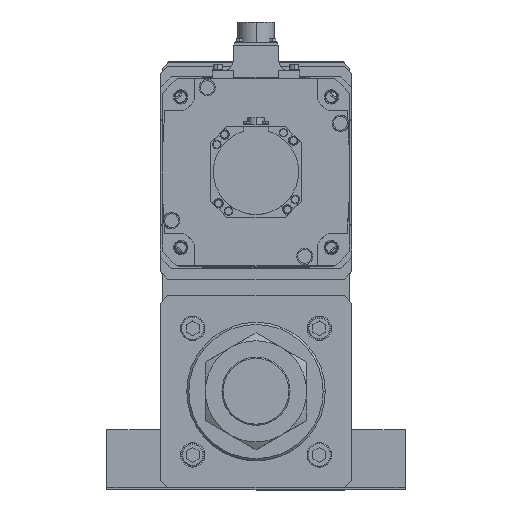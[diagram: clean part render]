
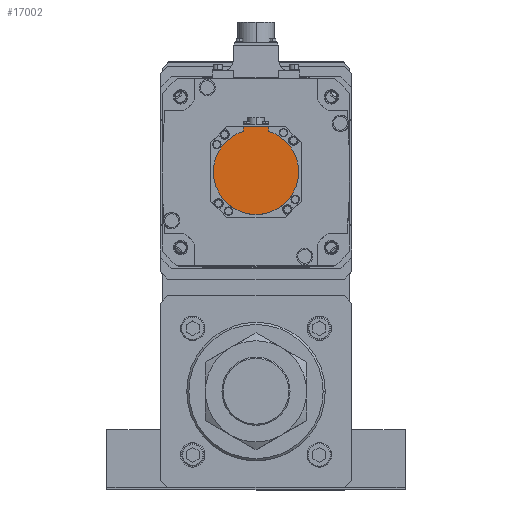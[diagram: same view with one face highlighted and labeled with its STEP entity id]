
A CAD part, top view. The second image highlights one B-rep face of the part: STEP entity #17002.
In plain terms, the highlighted planar face has unit normal (0, 0, 1) as drawn and (0, 0, -1) by its records, which use the part's own axes.
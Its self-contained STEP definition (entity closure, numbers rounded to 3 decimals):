
#1175 = ORIENTED_EDGE ( 'NONE', *, *, #35959, .F. ) ;
#1874 = LINE ( 'NONE', #35072, #10832 ) ;
#6934 = FACE_OUTER_BOUND ( 'NONE', #39545, .T. ) ;
#8008 = ORIENTED_EDGE ( 'NONE', *, *, #10337, .F. ) ;
#9338 = EDGE_CURVE ( 'NONE', #41839, #38315, #39462, .T. ) ;
#10337 = EDGE_CURVE ( 'NONE', #21704, #29147, #18780, .T. ) ;
#10832 = VECTOR ( 'NONE', #47102, 1000. ) ;
#10974 = DIRECTION ( 'NONE',  ( 1., 0., 0. ) ) ;
#11682 = CARTESIAN_POINT ( 'NONE',  ( -40., 0., -178.5 ) ) ;
#13493 = DIRECTION ( 'NONE',  ( 1., 0., 0. ) ) ;
#13506 = EDGE_CURVE ( 'NONE', #37240, #29147, #1874, .T. ) ;
#15130 = CARTESIAN_POINT ( 'NONE',  ( 0., -42.5, -178.5 ) ) ;
#15631 = DIRECTION ( 'NONE',  ( 0., 0., 1. ) ) ;
#15659 = AXIS2_PLACEMENT_3D ( 'NONE', #51134, #34806, #47696 ) ;
#17002 = ADVANCED_FACE ( 'NONE', ( #6934 ), #48492, .F. ) ;
#18032 = CARTESIAN_POINT ( 'NONE',  ( 12., -38.158, -178.5 ) ) ;
#18534 = AXIS2_PLACEMENT_3D ( 'NONE', #44155, #15631, #10974 ) ;
#18772 = VECTOR ( 'NONE', #44004, 1000. ) ;
#18780 = CIRCLE ( 'NONE', #20399, 40. ) ;
#18799 = VERTEX_POINT ( 'NONE', #50436 ) ;
#20151 = ORIENTED_EDGE ( 'NONE', *, *, #9338, .F. ) ;
#20399 = AXIS2_PLACEMENT_3D ( 'NONE', #29793, #25633, #13493 ) ;
#21684 = EDGE_CURVE ( 'NONE', #18799, #21704, #50699, .T. ) ;
#21704 = VERTEX_POINT ( 'NONE', #11682 ) ;
#23639 = EDGE_CURVE ( 'NONE', #41839, #37240, #24521, .T. ) ;
#24521 = LINE ( 'NONE', #15130, #18772 ) ;
#25633 = DIRECTION ( 'NONE',  ( 0., 0., 1. ) ) ;
#27356 = CARTESIAN_POINT ( 'NONE',  ( 12., -1.249, -178.5 ) ) ;
#27515 = DIRECTION ( 'NONE',  ( 1., 0., 0. ) ) ;
#29147 = VERTEX_POINT ( 'NONE', #44522 ) ;
#29793 = CARTESIAN_POINT ( 'NONE',  ( 0., 0., -178.5 ) ) ;
#31601 = CARTESIAN_POINT ( 'NONE',  ( 12., -42.5, -178.5 ) ) ;
#32369 = CARTESIAN_POINT ( 'NONE',  ( 0., -1.249, -178.5 ) ) ;
#32882 = ORIENTED_EDGE ( 'NONE', *, *, #13506, .T. ) ;
#34806 = DIRECTION ( 'NONE',  ( 0., 0., 1. ) ) ;
#35072 = CARTESIAN_POINT ( 'NONE',  ( -12., -40.329, -178.5 ) ) ;
#35959 = EDGE_CURVE ( 'NONE', #38315, #18799, #38349, .T. ) ;
#36661 = DIRECTION ( 'NONE',  ( 0., 1., 0. ) ) ;
#37240 = VERTEX_POINT ( 'NONE', #47860 ) ;
#38315 = VERTEX_POINT ( 'NONE', #18032 ) ;
#38349 = CIRCLE ( 'NONE', #15659, 40. ) ;
#39462 = LINE ( 'NONE', #27356, #49094 ) ;
#39545 = EDGE_LOOP ( 'NONE', ( #32882, #8008, #49453, #1175, #20151, #48344 ) ) ;
#39879 = DIRECTION ( 'NONE',  ( 0., 0., 1. ) ) ;
#41839 = VERTEX_POINT ( 'NONE', #31601 ) ;
#44004 = DIRECTION ( 'NONE',  ( -1., 0., 0. ) ) ;
#44155 = CARTESIAN_POINT ( 'NONE',  ( 0., 0., -178.5 ) ) ;
#44522 = CARTESIAN_POINT ( 'NONE',  ( -12., -38.158, -178.5 ) ) ;
#47102 = DIRECTION ( 'NONE',  ( 0., 1., 0. ) ) ;
#47696 = DIRECTION ( 'NONE',  ( 1., 0., 0. ) ) ;
#47860 = CARTESIAN_POINT ( 'NONE',  ( -12., -42.5, -178.5 ) ) ;
#48116 = AXIS2_PLACEMENT_3D ( 'NONE', #32369, #39879, #27515 ) ;
#48344 = ORIENTED_EDGE ( 'NONE', *, *, #23639, .T. ) ;
#48492 = PLANE ( 'NONE',  #48116 ) ;
#49094 = VECTOR ( 'NONE', #36661, 1000. ) ;
#49453 = ORIENTED_EDGE ( 'NONE', *, *, #21684, .F. ) ;
#50436 = CARTESIAN_POINT ( 'NONE',  ( 40., 0., -178.5 ) ) ;
#50699 = CIRCLE ( 'NONE', #18534, 40. ) ;
#51134 = CARTESIAN_POINT ( 'NONE',  ( 0., 0., -178.5 ) ) ;
